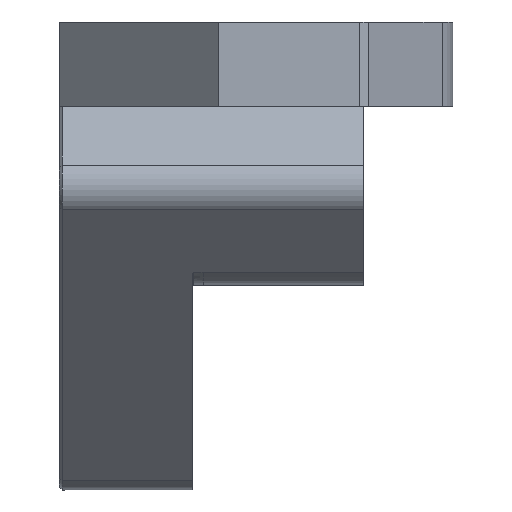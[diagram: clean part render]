
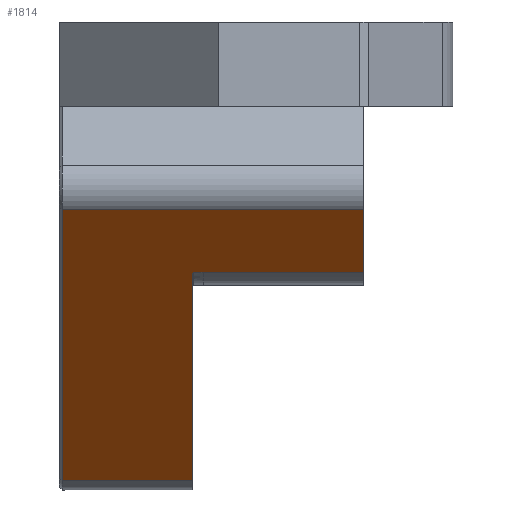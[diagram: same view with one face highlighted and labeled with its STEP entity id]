
A CAD part, left-side view. The second image highlights one B-rep face of the part: STEP entity #1814.
In plain terms, the highlighted planar face has unit normal (-0.707, 0, -0.707).
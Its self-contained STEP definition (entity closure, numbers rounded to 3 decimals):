
#169=LINE('',#3462,#329);
#177=LINE('',#3483,#337);
#178=LINE('',#3487,#338);
#179=LINE('',#3489,#339);
#180=LINE('',#3491,#340);
#181=LINE('',#3493,#341);
#182=LINE('',#3495,#342);
#183=LINE('',#3497,#343);
#184=LINE('',#3498,#344);
#329=VECTOR('',#2129,10.);
#337=VECTOR('',#2149,10.);
#338=VECTOR('',#2154,10.);
#339=VECTOR('',#2155,10.);
#340=VECTOR('',#2156,10.);
#341=VECTOR('',#2157,10.);
#342=VECTOR('',#2158,10.);
#343=VECTOR('',#2159,10.);
#344=VECTOR('',#2160,10.);
#461=PLANE('',#1922);
#527=FACE_OUTER_BOUND('',#632,.T.);
#632=EDGE_LOOP('',(#1352,#1353,#1354,#1355,#1356,#1357,#1358,#1359,#1360));
#836=VERTEX_POINT('',#3452);
#838=VERTEX_POINT('',#3458);
#846=VERTEX_POINT('',#3482);
#847=VERTEX_POINT('',#3486);
#848=VERTEX_POINT('',#3488);
#849=VERTEX_POINT('',#3490);
#850=VERTEX_POINT('',#3492);
#851=VERTEX_POINT('',#3494);
#852=VERTEX_POINT('',#3496);
#1038=EDGE_CURVE('',#836,#838,#169,.T.);
#1048=EDGE_CURVE('',#838,#846,#177,.T.);
#1050=EDGE_CURVE('',#847,#836,#178,.T.);
#1051=EDGE_CURVE('',#847,#848,#179,.F.);
#1052=EDGE_CURVE('',#848,#849,#180,.T.);
#1053=EDGE_CURVE('',#849,#850,#181,.T.);
#1054=EDGE_CURVE('',#851,#850,#182,.T.);
#1055=EDGE_CURVE('',#852,#851,#183,.T.);
#1056=EDGE_CURVE('',#846,#852,#184,.T.);
#1352=ORIENTED_EDGE('',*,*,#1038,.F.);
#1353=ORIENTED_EDGE('',*,*,#1050,.F.);
#1354=ORIENTED_EDGE('',*,*,#1051,.T.);
#1355=ORIENTED_EDGE('',*,*,#1052,.T.);
#1356=ORIENTED_EDGE('',*,*,#1053,.T.);
#1357=ORIENTED_EDGE('',*,*,#1054,.F.);
#1358=ORIENTED_EDGE('',*,*,#1055,.F.);
#1359=ORIENTED_EDGE('',*,*,#1056,.F.);
#1360=ORIENTED_EDGE('',*,*,#1048,.F.);
#1814=ADVANCED_FACE('',(#527),#461,.T.);
#1922=AXIS2_PLACEMENT_3D('',#3485,#2152,#2153);
#2129=DIRECTION('',(-0.707,0.,0.707));
#2149=DIRECTION('',(0.,-1.,0.));
#2152=DIRECTION('center_axis',(-0.707,0.,
-0.707));
#2153=DIRECTION('ref_axis',(0.707,0.,-0.707));
#2154=DIRECTION('',(0.,1.,0.));
#2155=DIRECTION('',(0.707,0.,-0.707));
#2156=DIRECTION('',(0.,-1.,0.));
#2157=DIRECTION('',(-0.707,0.,0.707));
#2158=DIRECTION('',(0.,1.,0.));
#2159=DIRECTION('',(0.,1.,0.));
#2160=DIRECTION('',(0.707,0.,-0.707));
#3452=CARTESIAN_POINT('',(22.898,52.008,-1.887));
#3458=CARTESIAN_POINT('',(4.55,52.008,16.462));
#3462=CARTESIAN_POINT('',(10.867,52.008,10.145));
#3482=CARTESIAN_POINT('',(4.55,31.62,16.462));
#3483=CARTESIAN_POINT('',(4.55,40.858,16.462));
#3485=CARTESIAN_POINT('Origin',(4.55,51.908,16.462));
#3486=CARTESIAN_POINT('',(22.898,43.208,-1.887));
#3487=CARTESIAN_POINT('',(22.898,50.261,-1.887));
#3488=CARTESIAN_POINT('',(8.88,43.208,12.131));
#3489=CARTESIAN_POINT('',(9.553,43.208,11.459));
#3490=CARTESIAN_POINT('',(8.88,43.108,12.131));
#3491=CARTESIAN_POINT('',(8.88,42.308,12.131));
#3492=CARTESIAN_POINT('',(8.775,43.108,12.237));
#3493=CARTESIAN_POINT('',(6.651,43.108,14.36));
#3494=CARTESIAN_POINT('',(8.775,42.458,12.237));
#3495=CARTESIAN_POINT('',(8.775,42.458,12.237));
#3496=CARTESIAN_POINT('',(8.775,31.62,12.237));
#3497=CARTESIAN_POINT('',(8.775,46.636,12.237));
#3498=CARTESIAN_POINT('',(10.867,31.62,10.145));
